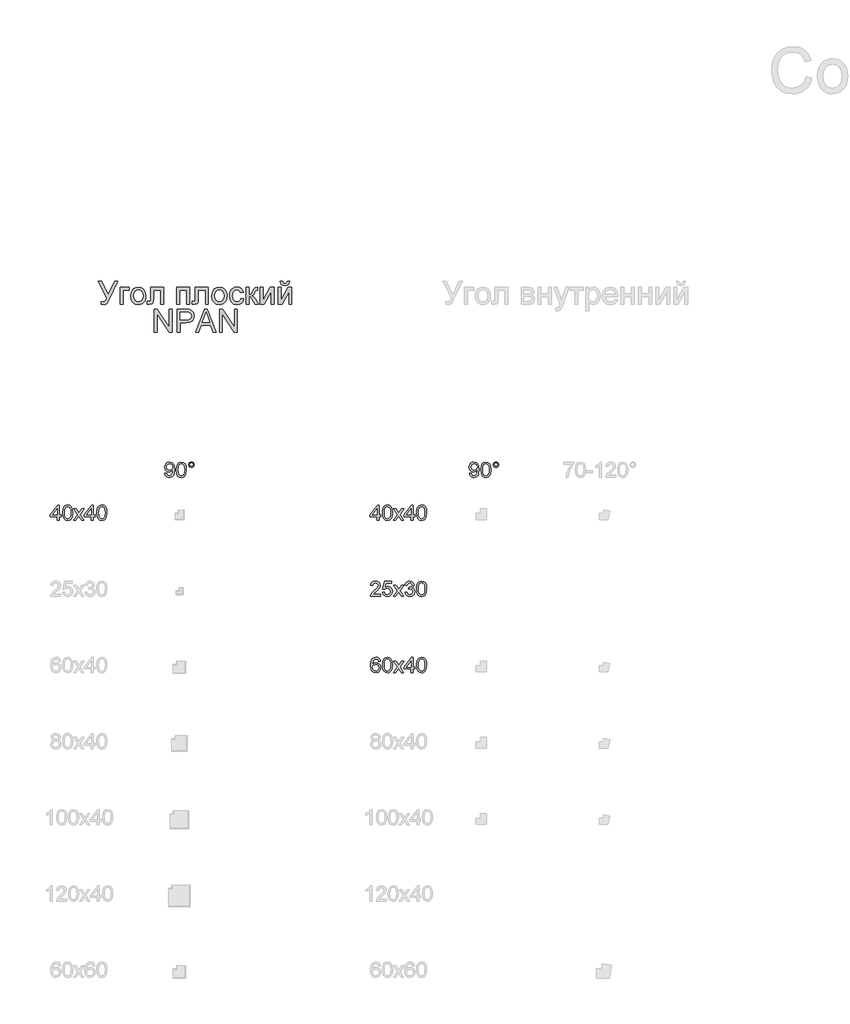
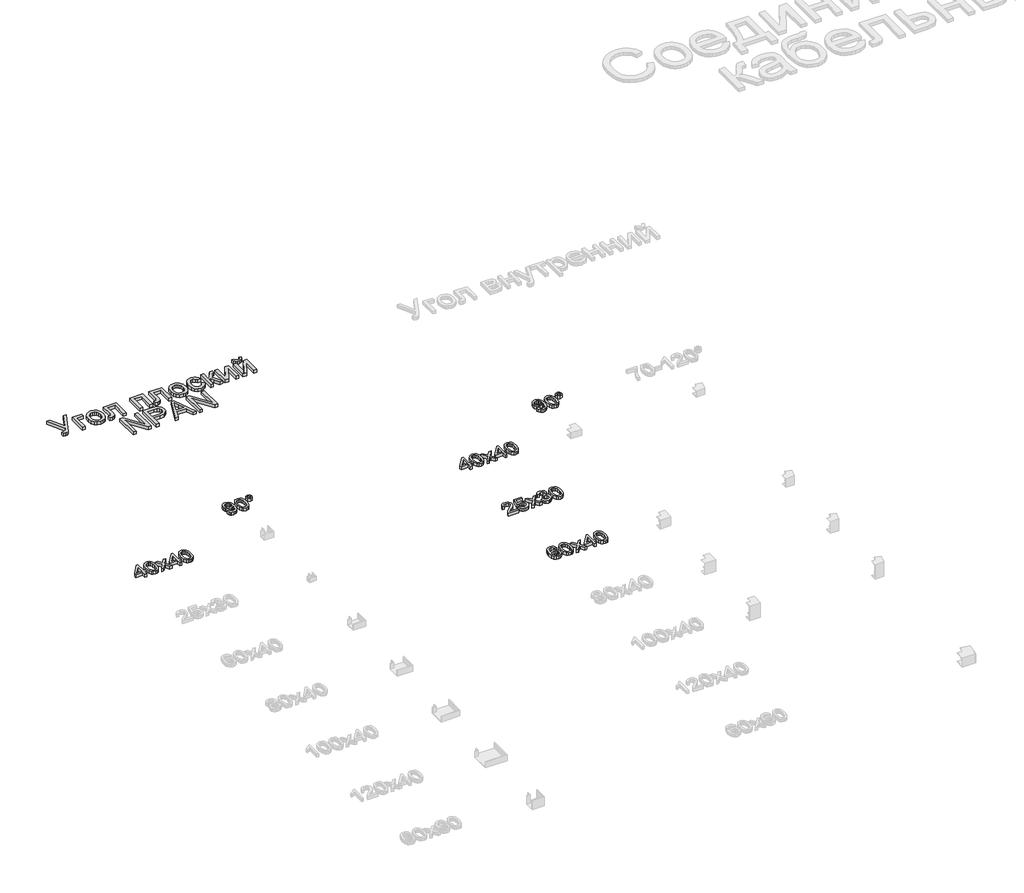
# One storey, part 21 of 28: 7 proxies.
"""IFC4 building model written with IfcOpenShell, lengths in millimetres."""

from ifc_helpers import new_model, si_unit, origin, origin_with_axes, place, context, project, spatial, polyline, outline, extrude, element, save

model = new_model("IFC4")

# Units and contexts
model_context = context("Model", 3, world=origin())
ifc_project = project(units=[si_unit("LENGTHUNIT", "METRE", prefix="MILLI")], contexts=[model_context])

# Site, building, storey
site = spatial("IfcSite", under=ifc_project)
building = spatial("IfcBuilding", under=site)
storey = spatial("IfcBuildingStorey", under=building, Name="Этаж 01", Elevation=0.0)

# Proxies
placement = place(None, origin())
element("IfcBuildingElementProxy", 1, Name="150 мм Arial", ObjectType="150 мм Arial", at=placement, inside=storey, context=model_context, shape_type="SweptSolid", body=[
    extrude(outline(polyline([(13270.5404243, 4604.2826486), (13291.3993334, 4604.2826486), (13336.4648778, 4515.0344766), (13377.0054737, 4604.2826486), (13397.6804418, 4604.2826486), (13340.4747915, 4486.8915039), (13324.9133832, 4458.0495555), (13317.5281521, 4452.9451928), (13307.5125648, 4451.2437386), (13290.5532048, 4453.5981834), (13290.5532048, 4470.0792968), (13305.3788492, 4470.0792968), (13316.3785209, 4474.2731515), (13326.5688521, 4493.3662271), (13270.5404243, 4604.2826486)])), origin_with_axes(), (0.0, 0.0, 1.0), 20.0),
    extrude(outline(polyline([(13412.9843328, 4564.2570875), (13474.1998968, 4564.2570875), (13474.1998968, 4545.4215294), (13431.819891, 4545.4215294), (13431.819891, 4453.5981834), (13412.9843328, 4453.5981834), (13412.9843328, 4564.2570875)])), origin_with_axes(), (0.0, 0.0, 1.0), 20.0),
    extrude(outline(polyline([(13483.6176759, 4508.9276355), (13487.691969, 4535.6082772), (13499.9148483, 4554.3610619), (13515.0164042, 4563.5489147), (13533.0978042, 4566.6115323), (13552.885257, 4562.8821286), (13568.6903873, 4551.6939174), (13579.0508639, 4533.9298155), (13582.5043562, 4510.4727398), (13580.9776459, 4491.4440436), (13576.3975151, 4476.9586901), (13568.8973209, 4466.1107697), (13558.6104206, 4457.9943732), (13546.3921398, 4452.9313973), (13533.0978042, 4451.2437386), (13513.0712281, 4454.9593468), (13497.284492, 4466.1061712), (13487.0343799, 4484.2427536), (13483.6176759, 4508.9276355)]), holes=[polyline([(13502.453234, 4508.9644237), (13504.6329348, 4491.9176917), (13511.1720373, 4479.7729873), (13521.0128807, 4472.5027194), (13533.0978042, 4470.0792968), (13545.1275455, 4472.516515), (13554.9499947, 4479.8281696), (13561.4890972, 4492.1338224), (13563.668798, 4509.5530348), (13561.4753016, 4526.1031261), (13554.8948124, 4538.0822836), (13545.0585676, 4545.3525515), (13533.0978042, 4547.7759741), (13521.0128807, 4545.3617485), (13511.1720373, 4538.1190718), (13504.6329348, 4526.0019586), (13502.453234, 4508.9644237)])]), origin_with_axes(), (0.0, 0.0, 1.0), 20.0),
    extrude(outline(polyline([(13613.1121382, 4564.2570875), (13697.8721499, 4564.2570875), (13697.8721499, 4453.708548), (13679.0365917, 4453.708548), (13679.0365917, 4545.4215294), (13631.9476963, 4545.4215294), (13631.9476963, 4492.6304631), (13630.6785034, 4468.276675), (13623.7071396, 4457.9943732), (13607.2260263, 4453.5981834), (13591.9221353, 4454.5546766), (13591.9221353, 4472.4337415), (13600.3466329, 4472.4337415), (13608.8631011, 4473.5925698), (13612.2660096, 4477.2713898), (13613.1121382, 4493.6973209), (13613.1121382, 4564.2570875)])), origin_with_axes(), (0.0, 0.0, 1.0), 20.0),
    extrude(outline(polyline([(13784.9866063, 4564.2570875), (13869.746618, 4564.2570875), (13869.746618, 4453.5981834), (13850.9110599, 4453.5981834), (13850.9110599, 4545.4215294), (13803.8221645, 4545.4215294), (13803.8221645, 4453.5981834), (13784.9866063, 4453.5981834), (13784.9866063, 4564.2570875)])), origin_with_axes(), (0.0, 0.0, 1.0), 20.0),
    extrude(outline(polyline([(13907.4177343, 4564.2570875), (13992.177746, 4564.2570875), (13992.177746, 4453.708548), (13973.3421879, 4453.708548), (13973.3421879, 4545.4215294), (13926.2532925, 4545.4215294), (13926.2532925, 4492.6304631), (13924.9840996, 4468.276675), (13918.0127358, 4457.9943732), (13901.5316224, 4453.5981834), (13886.2277314, 4454.5546766), (13886.2277314, 4472.4337415), (13894.6522291, 4472.4337415), (13903.1686973, 4473.5925698), (13906.5716057, 4477.2713898), (13907.4177343, 4493.6973209), (13907.4177343, 4564.2570875)])), origin_with_axes(), (0.0, 0.0, 1.0), 20.0),
    extrude(outline(polyline([(14015.7221937, 4508.9276355), (14019.7964868, 4535.6082772), (14032.0193661, 4554.3610619), (14047.120922, 4563.5489147), (14065.202322, 4566.6115323), (14084.9897749, 4562.8821286), (14100.7949051, 4551.6939174), (14111.1553818, 4533.9298155), (14114.608874, 4510.4727398), (14113.0821637, 4491.4440436), (14108.5020329, 4476.9586901), (14101.0018387, 4466.1107697), (14090.7149384, 4457.9943732), (14078.4966576, 4452.9313973), (14065.202322, 4451.2437386), (14045.1757459, 4454.9593468), (14029.3890098, 4466.1061712), (14019.1388977, 4484.2427536), (14015.7221937, 4508.9276355)]), holes=[polyline([(14034.5577518, 4508.9644237), (14036.7374527, 4491.9176917), (14043.2765551, 4479.7729873), (14053.1173985, 4472.5027194), (14065.202322, 4470.0792968), (14077.2320633, 4472.516515), (14087.0545126, 4479.8281696), (14093.593615, 4492.1338224), (14095.7733158, 4509.5530348), (14093.5798194, 4526.1031261), (14086.9993303, 4538.0822836), (14077.1630854, 4545.3525515), (14065.202322, 4547.7759741), (14053.1173985, 4545.3617485), (14043.2765551, 4538.1190718), (14036.7374527, 4526.0019586), (14034.5577518, 4508.9644237)])]), origin_with_axes(), (0.0, 0.0, 1.0), 20.0),
    extrude(outline(polyline([(14206.43222, 4493.6237445), (14225.2677781, 4491.2692997), (14220.0162627, 4474.5168733), (14210.1478281, 4461.8571342), (14196.5913766, 4453.8970875), (14180.2758101, 4451.2437386), (14160.240037, 4454.9455512), (14144.5728625, 4466.0509889), (14134.4607062, 4484.0726082), (14131.0899874, 4508.5229653), (14132.5293257, 4525.2845887), (14136.8473406, 4539.8113289), (14144.11301, 4551.5421661), (14154.3953118, 4559.91608), (14166.696366, 4564.9376692), (14180.0182927, 4566.6115323), (14195.9337876, 4564.3122698), (14208.6579061, 4557.4144824), (14217.7859781, 4546.2860521), (14222.9133334, 4531.2948608), (14204.0777752, 4528.940416), (14195.3405778, 4543.0486905), (14180.1654455, 4547.7759741), (14167.99315, 4545.4491205), (14158.3316491, 4538.4685597), (14152.0270714, 4526.4572125), (14149.9255455, 4509.0380001), (14151.9810862, 4491.3842628), (14158.1477081, 4479.3315289), (14167.6344651, 4472.3923548), (14179.6504107, 4470.0792968), (14189.4038821, 4471.5232336), (14197.400717, 4475.8550441), (14203.2178511, 4483.1850928), (14206.43222, 4493.6237445)])), origin_with_axes(), (0.0, 0.0, 1.0), 20.0),
    extrude(outline(polyline([(14241.7488915, 4564.2570875), (14260.5844497, 4564.2570875), (14260.5844497, 4517.1681921), (14273.2028021, 4520.5527065), (14283.5402862, 4540.2711814), (14292.1303308, 4557.2857237), (14299.7086999, 4562.8223477), (14313.4858806, 4564.2570875), (14317.0911241, 4564.2570875), (14317.0911241, 4545.3111648), (14312.0143526, 4545.4215294), (14302.8173027, 4543.4349666), (14296.3425796, 4531.0373434), (14288.7458164, 4517.6280446), (14278.0956327, 4511.061351), (14289.9782211, 4503.7313023), (14301.6400803, 4488.2894555), (14321.8000137, 4453.5981834), (14300.3892816, 4453.5981834), (14280.6340184, 4487.5536915), (14270.7012046, 4501.9194834), (14260.5844497, 4505.3959683), (14260.5844497, 4453.5981834), (14241.7488915, 4453.5981834), (14241.7488915, 4564.2570875)])), origin_with_axes(), (0.0, 0.0, 1.0), 20.0),
    extrude(outline(polyline([(14333.5722375, 4564.2570875), (14352.4077957, 4564.2570875), (14352.4077957, 4479.8649578), (14398.6873507, 4564.2570875), (14423.0411388, 4564.2570875), (14423.0411388, 4453.5981834), (14404.2055806, 4453.5981834), (14404.2055806, 4537.4752783), (14358.2203312, 4453.5981834), (14333.5722375, 4453.5981834), (14333.5722375, 4564.2570875)])), origin_with_axes(), (0.0, 0.0, 1.0), 20.0),
    extrude(outline(polyline([(14451.294476, 4564.2570875), (14470.1300341, 4564.2570875), (14470.1300341, 4479.8649578), (14516.4095891, 4564.2570875), (14540.7633772, 4564.2570875), (14540.7633772, 4453.5981834), (14521.9278191, 4453.5981834), (14521.9278191, 4537.4752783), (14475.9425697, 4453.5981834), (14451.294476, 4453.5981834), (14451.294476, 4564.2570875)])), origin_with_axes(), (0.0, 0.0, 1.0), 20.0),
    extrude(outline(polyline([(14512.51004, 4604.2826486), (14526.6367086, 4604.2826486), (14523.5970836, 4592.2207177), (14517.494841, 4583.331769), (14508.6058923, 4577.8549258), (14497.206149, 4576.0293114), (14484.8361169, 4577.8411302), (14475.2435939, 4583.2765867), (14468.6860973, 4592.1517398), (14465.4211446, 4604.2826486), (14479.5478132, 4604.2826486), (14484.8453139, 4593.669253), (14495.5138918, 4590.15598), (14507.2125393, 4593.5588884), (14512.51004, 4604.2826486)])), origin_with_axes(), (0.0, 0.0, 1.0), 20.0),
    extrude(outline(polyline([(13636.6565859, 4270.6359566), (13636.6565859, 4421.3204218), (13656.8165192, 4421.3204218), (13735.5432662, 4301.9427144), (13735.5432662, 4421.3204218), (13754.3788243, 4421.3204218), (13754.3788243, 4270.6359566), (13734.218891, 4270.6359566), (13655.492144, 4390.0504522), (13655.492144, 4270.6359566), (13636.6565859, 4270.6359566)])), origin_with_axes(), (0.0, 0.0, 1.0), 20.0),
    extrude(outline(polyline([(13787.3410511, 4270.6359566), (13787.3410511, 4421.3204218), (13843.185538, 4421.3204218), (13865.6999161, 4419.8856821), (13884.0020453, 4412.8407418), (13895.8662397, 4398.2726148), (13900.3544, 4377.7264054), (13897.3239721, 4359.9669021), (13888.2326883, 4345.1688488), (13871.2319416, 4335.1808527), (13844.4731249, 4331.8515206), (13806.1766092, 4331.8515206), (13806.1766092, 4270.6359566), (13787.3410511, 4270.6359566)]), holes=[polyline([(13806.1766092, 4350.6870788), (13845.5767709, 4350.6870788), (13862.2786135, 4352.4161241), (13873.3150734, 4357.6032603), (13879.4678997, 4365.9265904), (13881.5188419, 4377.0642178), (13876.6811936, 4392.6624144), (13863.9708707, 4401.1972767), (13845.1353125, 4402.4848637), (13806.1766092, 4402.4848637), (13806.1766092, 4350.6870788)])]), origin_with_axes(), (0.0, 0.0, 1.0), 20.0),
    extrude(outline(polyline([(13908.7053213, 4270.6359566), (13968.8540275, 4421.3204218), (13984.8936825, 4421.3204218), (14045.0423887, 4270.6359566), (14025.1399728, 4270.6359566), (14007.8863072, 4317.724852), (13945.8246146, 4317.724852), (13928.6077372, 4270.6359566), (13908.7053213, 4270.6359566)]), holes=[polyline([(13952.7407961, 4336.5604101), (14001.0069139, 4336.5604101), (13987.4320683, 4373.6061271), (13976.873855, 4402.4848637), (13967.4928641, 4376.8434886), (13952.7407961, 4336.5604101)])]), origin_with_axes(), (0.0, 0.0, 1.0), 20.0),
    extrude(outline(polyline([(14065.1655338, 4270.6359566), (14065.1655338, 4421.3204218), (14085.3254672, 4421.3204218), (14164.0522141, 4301.9427144), (14164.0522141, 4421.3204218), (14182.8877723, 4421.3204218), (14182.8877723, 4270.6359566), (14162.727839, 4270.6359566), (14084.001092, 4390.0504522), (14084.001092, 4270.6359566), (14065.1655338, 4270.6359566)])), origin_with_axes(), (0.0, 0.0, 1.0), 20.0),
])
element("IfcBuildingElementProxy", 2, Name="100 мм Arial", ObjectType="100 мм Arial", at=placement, inside=storey, context=model_context, shape_type="SweptSolid", body=[
    extrude(outline(polyline([(12999.7099126, 3036.6647442), (12999.7099126, 3060.2091919), (12954.1906471, 3060.2091919), (12954.1906471, 3072.7662307), (13002.8491723, 3135.5514245), (13012.2669514, 3135.5514245), (13012.2669514, 3072.7662307), (13024.8239902, 3072.7662307), (13024.8239902, 3060.2091919), (13012.2669514, 3060.2091919), (13012.2669514, 3036.6647442), (12999.7099126, 3036.6647442)]), holes=[polyline([(12999.7099126, 3072.7662307), (12999.7099126, 3111.5655184), (12969.6416909, 3072.7662307), (12999.7099126, 3072.7662307)])]), origin_with_axes(), (0.0, 0.0, 1.0), 20.0),
    extrude(outline(polyline([(13035.8113991, 3086.0835589), (13039.5024818, 3114.986821), (13050.4653652, 3131.6518754), (13068.7736259, 3137.1210543), (13083.4398547, 3133.8836928), (13093.5688723, 3124.5517528), (13099.4549843, 3109.6893202), (13101.7358526, 3086.0835589), (13098.0815581, 3057.3029241), (13087.1554629, 3040.6010815), (13078.9241032, 3036.4716062), (13068.7736259, 3035.0951144), (13055.7260778, 3037.4863473), (13045.8177894, 3044.6600462), (13038.3129967, 3061.650063), (13035.8113991, 3086.0835589)]), holes=[polyline([(13048.3684379, 3086.1080844), (13049.8399658, 3066.3558869), (13054.2545498, 3054.9239539), (13060.8273748, 3049.4701033), (13068.7736259, 3047.6521531), (13076.719877, 3049.4762347), (13083.2927019, 3054.9484794), (13087.7072859, 3066.3865437), (13089.1788139, 3086.1080844), (13087.7563368, 3105.4157577), (13083.4889057, 3116.9365955), (13076.9283434, 3122.6571606), (13068.6264731, 3124.5640156), (13060.7660611, 3122.8840211), (13054.4507535, 3117.8440378), (13049.8890168, 3105.6058301), (13048.3684379, 3086.1080844)])]), origin_with_axes(), (0.0, 0.0, 1.0), 20.0),
    extrude(outline(polyline([(13108.014372, 3036.6647442), (13134.8452322, 3073.7472493), (13109.5840019, 3110.437347), (13124.6916891, 3110.437347), (13136.8808459, 3092.7790112), (13142.5707541, 3084.4403526), (13147.5003728, 3091.2584323), (13161.3817868, 3110.437347), (13176.489474, 3110.437347), (13149.9529195, 3073.7472493), (13175.5084554, 3036.6647442), (13160.4007681, 3036.6647442), (13145.0233007, 3058.9583931), (13142.2028721, 3063.0296205), (13123.1220593, 3036.6647442), (13108.014372, 3036.6647442)])), origin_with_axes(), (0.0, 0.0, 1.0), 20.0),
    extrude(outline(polyline([(13224.1669806, 3036.6647442), (13224.1669806, 3060.2091919), (13178.6477151, 3060.2091919), (13178.6477151, 3072.7662307), (13227.3062403, 3135.5514245), (13236.7240194, 3135.5514245), (13236.7240194, 3072.7662307), (13249.2810582, 3072.7662307), (13249.2810582, 3060.2091919), (13236.7240194, 3060.2091919), (13236.7240194, 3036.6647442), (13224.1669806, 3036.6647442)]), holes=[polyline([(13224.1669806, 3072.7662307), (13224.1669806, 3111.5655184), (13194.0987589, 3072.7662307), (13224.1669806, 3072.7662307)])]), origin_with_axes(), (0.0, 0.0, 1.0), 20.0),
    extrude(outline(polyline([(13260.2684671, 3086.0835589), (13263.9595498, 3114.986821), (13274.9224332, 3131.6518754), (13293.2306938, 3137.1210543), (13307.8969227, 3133.8836928), (13318.0259403, 3124.5517528), (13323.9120522, 3109.6893202), (13326.1929206, 3086.0835589), (13322.5386261, 3057.3029241), (13311.6125309, 3040.6010815), (13303.3811712, 3036.4716062), (13293.2306938, 3035.0951144), (13280.1831458, 3037.4863473), (13270.2748573, 3044.6600462), (13262.7700646, 3061.650063), (13260.2684671, 3086.0835589)]), holes=[polyline([(13272.8255058, 3086.1080844), (13274.2970338, 3066.3558869), (13278.7116178, 3054.9239539), (13285.2844428, 3049.4701033), (13293.2306938, 3047.6521531), (13301.1769449, 3049.4762347), (13307.7497699, 3054.9484794), (13312.1643539, 3066.3865437), (13313.6358818, 3086.1080844), (13312.2134048, 3105.4157577), (13307.9459737, 3116.9365955), (13301.3854114, 3122.6571606), (13293.0835411, 3124.5640156), (13285.2231291, 3122.8840211), (13278.9078215, 3117.8440378), (13274.3460848, 3105.6058301), (13272.8255058, 3086.1080844)])]), origin_with_axes(), (0.0, 0.0, 1.0), 20.0),
])
element("IfcBuildingElementProxy", 3, Name="100 мм Arial", ObjectType="100 мм Arial", at=placement, inside=storey, context=model_context, shape_type="SweptSolid", body=[
    extrude(outline(polyline([(15099.7099126, 3036.6647442), (15099.7099126, 3060.2091919), (15054.1906471, 3060.2091919), (15054.1906471, 3072.7662307), (15102.8491723, 3135.5514245), (15112.2669514, 3135.5514245), (15112.2669514, 3072.7662307), (15124.8239902, 3072.7662307), (15124.8239902, 3060.2091919), (15112.2669514, 3060.2091919), (15112.2669514, 3036.6647442), (15099.7099126, 3036.6647442)]), holes=[polyline([(15099.7099126, 3072.7662307), (15099.7099126, 3111.5655184), (15069.6416909, 3072.7662307), (15099.7099126, 3072.7662307)])]), origin_with_axes(), (0.0, 0.0, 1.0), 20.0),
    extrude(outline(polyline([(15135.8113991, 3086.0835589), (15139.5024818, 3114.986821), (15150.4653652, 3131.6518754), (15168.7736259, 3137.1210543), (15183.4398547, 3133.8836928), (15193.5688723, 3124.5517528), (15199.4549843, 3109.6893202), (15201.7358526, 3086.0835589), (15198.0815581, 3057.3029241), (15187.1554629, 3040.6010815), (15178.9241032, 3036.4716062), (15168.7736259, 3035.0951144), (15155.7260778, 3037.4863473), (15145.8177894, 3044.6600462), (15138.3129967, 3061.650063), (15135.8113991, 3086.0835589)]), holes=[polyline([(15148.3684379, 3086.1080844), (15149.8399658, 3066.3558869), (15154.2545498, 3054.9239539), (15160.8273748, 3049.4701033), (15168.7736259, 3047.6521531), (15176.719877, 3049.4762347), (15183.2927019, 3054.9484794), (15187.7072859, 3066.3865437), (15189.1788139, 3086.1080844), (15187.7563368, 3105.4157577), (15183.4889057, 3116.9365955), (15176.9283434, 3122.6571606), (15168.6264731, 3124.5640156), (15160.7660611, 3122.8840211), (15154.4507535, 3117.8440378), (15149.8890168, 3105.6058301), (15148.3684379, 3086.1080844)])]), origin_with_axes(), (0.0, 0.0, 1.0), 20.0),
    extrude(outline(polyline([(15208.014372, 3036.6647442), (15234.8452322, 3073.7472493), (15209.5840019, 3110.437347), (15224.6916891, 3110.437347), (15236.8808459, 3092.7790112), (15242.5707541, 3084.4403526), (15247.5003728, 3091.2584323), (15261.3817868, 3110.437347), (15276.489474, 3110.437347), (15249.9529195, 3073.7472493), (15275.5084554, 3036.6647442), (15260.4007681, 3036.6647442), (15245.0233007, 3058.9583931), (15242.2028721, 3063.0296205), (15223.1220593, 3036.6647442), (15208.014372, 3036.6647442)])), origin_with_axes(), (0.0, 0.0, 1.0), 20.0),
    extrude(outline(polyline([(15324.1669806, 3036.6647442), (15324.1669806, 3060.2091919), (15278.6477151, 3060.2091919), (15278.6477151, 3072.7662307), (15327.3062403, 3135.5514245), (15336.7240194, 3135.5514245), (15336.7240194, 3072.7662307), (15349.2810582, 3072.7662307), (15349.2810582, 3060.2091919), (15336.7240194, 3060.2091919), (15336.7240194, 3036.6647442), (15324.1669806, 3036.6647442)]), holes=[polyline([(15324.1669806, 3072.7662307), (15324.1669806, 3111.5655184), (15294.0987589, 3072.7662307), (15324.1669806, 3072.7662307)])]), origin_with_axes(), (0.0, 0.0, 1.0), 20.0),
    extrude(outline(polyline([(15360.2684671, 3086.0835589), (15363.9595498, 3114.986821), (15374.9224332, 3131.6518754), (15393.2306938, 3137.1210543), (15407.8969227, 3133.8836928), (15418.0259403, 3124.5517528), (15423.9120522, 3109.6893202), (15426.1929206, 3086.0835589), (15422.5386261, 3057.3029241), (15411.6125309, 3040.6010815), (15403.3811712, 3036.4716062), (15393.2306938, 3035.0951144), (15380.1831458, 3037.4863473), (15370.2748573, 3044.6600462), (15362.7700646, 3061.650063), (15360.2684671, 3086.0835589)]), holes=[polyline([(15372.8255058, 3086.1080844), (15374.2970338, 3066.3558869), (15378.7116178, 3054.9239539), (15385.2844428, 3049.4701033), (15393.2306938, 3047.6521531), (15401.1769449, 3049.4762347), (15407.7497699, 3054.9484794), (15412.1643539, 3066.3865437), (15413.6358818, 3086.1080844), (15412.2134048, 3105.4157577), (15407.9459737, 3116.9365955), (15401.3854114, 3122.6571606), (15393.0835411, 3124.5640156), (15385.2231291, 3122.8840211), (15378.9078215, 3117.8440378), (15374.3460848, 3105.6058301), (15372.8255058, 3086.1080844)])]), origin_with_axes(), (0.0, 0.0, 1.0), 20.0),
])
element("IfcBuildingElementProxy", 4, Name="100 мм Arial", ObjectType="100 мм Arial", at=placement, inside=storey, context=model_context, shape_type="SweptSolid", body=[
    extrude(outline(polyline([(15123.2543603, 2549.221783), (15123.2543603, 2536.6647442), (15057.3299068, 2536.6647442), (15058.6788074, 2545.3222338), (15066.3062275, 2558.6518248), (15082.0270514, 2573.2076891), (15103.7075636, 2594.1279118), (15109.1276917, 2608.3526823), (15104.014132, 2619.8673888), (15090.6600155, 2624.5640156), (15076.7418134, 2619.9777534), (15071.4565754, 2607.2980873), (15058.8995366, 2608.8677171), (15061.9437601, 2621.0139543), (15068.5257822, 2629.8860418), (15078.3022462, 2635.3123012), (15090.9297957, 2637.1210543), (15103.6493157, 2635.1099661), (15113.4073856, 2629.0767014), (15119.6153943, 2620.0635925), (15121.6847305, 2609.1129718), (15119.452913, 2597.2058579), (15112.0339595, 2584.8940738), (15094.0445299, 2567.6894591), (15079.5990302, 2555.610667), (15073.9336475, 2549.221783), (15123.2543603, 2549.221783)])), origin_with_axes(), (0.0, 0.0, 1.0), 20.0),
    extrude(outline(polyline([(15135.8113991, 2563.3484516), (15148.3684379, 2564.9180814), (15154.6960082, 2551.9808979), (15167.8171327, 2547.6521531), (15176.8179788, 2549.1574036), (15183.5624821, 2553.6731551), (15187.7747309, 2560.6782414), (15189.1788139, 2569.6514964), (15183.9181013, 2584.56298), (15177.3115538, 2588.6648642), (15168.0133364, 2590.032159), (15156.9891393, 2587.8493925), (15149.9380677, 2582.1840097), (15137.3810289, 2583.7536396), (15148.3684379, 2635.5514245), (15197.0269631, 2635.5514245), (15197.0269631, 2622.9943857), (15158.5219809, 2622.9943857), (15153.1509038, 2595.3296597), (15162.1210931, 2600.7743132), (15171.5204781, 2602.5891977), (15183.2528481, 2600.3389862), (15192.9925239, 2593.5883516), (15199.5500204, 2583.2999185), (15201.7358526, 2570.4363114), (15199.767684, 2557.8792726), (15193.8631779, 2547.1371183), (15182.5569379, 2538.1056153), (15167.7680817, 2535.0951144), (15155.4348378, 2537.0295605), (15145.6093229, 2542.832899), (15138.8740167, 2551.8306794), (15135.8113991, 2563.3484516)])), origin_with_axes(), (0.0, 0.0, 1.0), 20.0),
    extrude(outline(polyline([(15208.014372, 2536.6647442), (15234.8452322, 2573.7472493), (15209.5840019, 2610.437347), (15224.6916891, 2610.437347), (15236.8808459, 2592.7790112), (15242.5707541, 2584.4403526), (15247.5003728, 2591.2584323), (15261.3817868, 2610.437347), (15276.489474, 2610.437347), (15249.9529195, 2573.7472493), (15275.5084554, 2536.6647442), (15260.4007681, 2536.6647442), (15245.0233007, 2558.9583931), (15242.2028721, 2563.0296205), (15223.1220593, 2536.6647442), (15208.014372, 2536.6647442)])), origin_with_axes(), (0.0, 0.0, 1.0), 20.0),
    extrude(outline(polyline([(15283.3566046, 2563.3484516), (15295.9136434, 2564.9180814), (15302.8420876, 2551.6988551), (15315.8037966, 2547.6521531), (15324.4122353, 2549.0439733), (15331.0586367, 2553.219434), (15336.7240194, 2567.0027461), (15331.1076876, 2579.9889805), (15316.8338662, 2585.1270657), (15308.0292238, 2583.7536396), (15309.4271753, 2596.3106784), (15311.4382636, 2596.1635256), (15325.6875595, 2599.7687691), (15330.4332373, 2604.3427686), (15332.0151299, 2610.8542799), (15327.4288676, 2620.6767292), (15315.6075929, 2624.5640156), (15303.6391653, 2620.639941), (15297.4832732, 2608.8677171), (15284.9262345, 2610.437347), (15288.6234485, 2621.7129301), (15295.2024049, 2630.1312964), (15304.203251, 2635.3736149), (15315.1661345, 2637.1210543), (15330.3106099, 2633.6752263), (15340.9056114, 2624.2574473), (15344.5721686, 2611.5900439), (15341.0895524, 2600.0140238), (15330.7888565, 2591.6998907), (15344.4740668, 2583.1159775), (15349.2810582, 2566.7820169), (15346.8775625, 2554.5438092), (15339.6670754, 2544.3166897), (15328.7838997, 2537.4005082), (15315.3623382, 2535.0951144), (15303.2222324, 2537.063283), (15293.3384694, 2542.967789), (15286.4652075, 2551.999292), (15283.3566046, 2563.3484516)])), origin_with_axes(), (0.0, 0.0, 1.0), 20.0),
    extrude(outline(polyline([(15360.2684671, 2586.0835589), (15363.9595498, 2614.986821), (15374.9224332, 2631.6518754), (15393.2306938, 2637.1210543), (15407.8969227, 2633.8836928), (15418.0259403, 2624.5517528), (15423.9120522, 2609.6893202), (15426.1929206, 2586.0835589), (15422.5386261, 2557.3029241), (15411.6125309, 2540.6010815), (15403.3811712, 2536.4716062), (15393.2306938, 2535.0951144), (15380.1831458, 2537.4863473), (15370.2748573, 2544.6600462), (15362.7700646, 2561.650063), (15360.2684671, 2586.0835589)]), holes=[polyline([(15372.8255058, 2586.1080844), (15374.2970338, 2566.3558869), (15378.7116178, 2554.9239539), (15385.2844428, 2549.4701033), (15393.2306938, 2547.6521531), (15401.1769449, 2549.4762347), (15407.7497699, 2554.9484794), (15412.1643539, 2566.3865437), (15413.6358818, 2586.1080844), (15412.2134048, 2605.4157577), (15407.9459737, 2616.9365955), (15401.3854114, 2622.6571606), (15393.0835411, 2624.5640156), (15385.2231291, 2622.8840211), (15378.9078215, 2617.8440378), (15374.3460848, 2605.6058301), (15372.8255058, 2586.1080844)])]), origin_with_axes(), (0.0, 0.0, 1.0), 20.0),
])
element("IfcBuildingElementProxy", 5, Name="100 мм Arial", ObjectType="100 мм Arial", at=placement, inside=storey, context=model_context, shape_type="SweptSolid", body=[
    extrude(outline(polyline([(15123.2543603, 2110.437347), (15110.6973216, 2108.8677171), (15105.9393811, 2119.3400912), (15093.3578168, 2124.5640156), (15082.0270514, 2121.5228578), (15073.4554009, 2110.1062532), (15069.8869456, 2087.7267651), (15080.9601936, 2097.7454181), (15094.682192, 2101.0195679), (15106.2827376, 2098.7816191), (15116.0193477, 2092.0677727), (15122.6228296, 2081.8099964), (15124.8239902, 2068.9402579), (15120.6791864, 2051.6130159), (15109.2748445, 2039.3502828), (15092.8182566, 2035.0951144), (15078.5720263, 2037.915543), (15067.2259325, 2046.3768289), (15059.8039132, 2061.3128379), (15057.3299068, 2083.5574359), (15060.076759, 2108.5672802), (15068.3173157, 2125.6676616), (15079.5683734, 2134.2577062), (15094.1426318, 2137.1210543), (15105.1606975, 2135.3490894), (15113.983734, 2130.0331946), (15120.1641516, 2121.5903028), (15123.2543603, 2110.437347)]), holes=[polyline([(15069.8869456, 2069.1364616), (15072.7932133, 2058.2594173), (15080.5187352, 2050.3622172), (15091.8372379, 2047.6521531), (15100.1237799, 2049.0562361), (15106.6383569, 2053.2684849), (15110.8598028, 2059.8903608), (15112.2669514, 2068.523325), (15110.8781969, 2076.8098669), (15106.7119333, 2083.1282402), (15100.0869917, 2087.1289569), (15091.3222031, 2088.4625291), (15076.1286767, 2083.1282402), (15071.4473784, 2076.9631511), (15069.8869456, 2069.1364616)])]), origin_with_axes(), (0.0, 0.0, 1.0), 20.0),
    extrude(outline(polyline([(15135.8113991, 2086.0835589), (15139.5024818, 2114.986821), (15150.4653652, 2131.6518754), (15168.7736259, 2137.1210543), (15183.4398547, 2133.8836928), (15193.5688723, 2124.5517528), (15199.4549843, 2109.6893202), (15201.7358526, 2086.0835589), (15198.0815581, 2057.3029241), (15187.1554629, 2040.6010815), (15178.9241032, 2036.4716062), (15168.7736259, 2035.0951144), (15155.7260778, 2037.4863473), (15145.8177894, 2044.6600462), (15138.3129967, 2061.650063), (15135.8113991, 2086.0835589)]), holes=[polyline([(15148.3684379, 2086.1080844), (15149.8399658, 2066.3558869), (15154.2545498, 2054.9239539), (15160.8273748, 2049.4701033), (15168.7736259, 2047.6521531), (15176.719877, 2049.4762347), (15183.2927019, 2054.9484794), (15187.7072859, 2066.3865437), (15189.1788139, 2086.1080844), (15187.7563368, 2105.4157577), (15183.4889057, 2116.9365955), (15176.9283434, 2122.6571606), (15168.6264731, 2124.5640156), (15160.7660611, 2122.8840211), (15154.4507535, 2117.8440378), (15149.8890168, 2105.6058301), (15148.3684379, 2086.1080844)])]), origin_with_axes(), (0.0, 0.0, 1.0), 20.0),
    extrude(outline(polyline([(15208.014372, 2036.6647442), (15234.8452322, 2073.7472493), (15209.5840019, 2110.437347), (15224.6916891, 2110.437347), (15236.8808459, 2092.7790112), (15242.5707541, 2084.4403526), (15247.5003728, 2091.2584323), (15261.3817868, 2110.437347), (15276.489474, 2110.437347), (15249.9529195, 2073.7472493), (15275.5084554, 2036.6647442), (15260.4007681, 2036.6647442), (15245.0233007, 2058.9583931), (15242.2028721, 2063.0296205), (15223.1220593, 2036.6647442), (15208.014372, 2036.6647442)])), origin_with_axes(), (0.0, 0.0, 1.0), 20.0),
    extrude(outline(polyline([(15324.1669806, 2036.6647442), (15324.1669806, 2060.2091919), (15278.6477151, 2060.2091919), (15278.6477151, 2072.7662307), (15327.3062403, 2135.5514245), (15336.7240194, 2135.5514245), (15336.7240194, 2072.7662307), (15349.2810582, 2072.7662307), (15349.2810582, 2060.2091919), (15336.7240194, 2060.2091919), (15336.7240194, 2036.6647442), (15324.1669806, 2036.6647442)]), holes=[polyline([(15324.1669806, 2072.7662307), (15324.1669806, 2111.5655184), (15294.0987589, 2072.7662307), (15324.1669806, 2072.7662307)])]), origin_with_axes(), (0.0, 0.0, 1.0), 20.0),
    extrude(outline(polyline([(15360.2684671, 2086.0835589), (15363.9595498, 2114.986821), (15374.9224332, 2131.6518754), (15393.2306938, 2137.1210543), (15407.8969227, 2133.8836928), (15418.0259403, 2124.5517528), (15423.9120522, 2109.6893202), (15426.1929206, 2086.0835589), (15422.5386261, 2057.3029241), (15411.6125309, 2040.6010815), (15403.3811712, 2036.4716062), (15393.2306938, 2035.0951144), (15380.1831458, 2037.4863473), (15370.2748573, 2044.6600462), (15362.7700646, 2061.650063), (15360.2684671, 2086.0835589)]), holes=[polyline([(15372.8255058, 2086.1080844), (15374.2970338, 2066.3558869), (15378.7116178, 2054.9239539), (15385.2844428, 2049.4701033), (15393.2306938, 2047.6521531), (15401.1769449, 2049.4762347), (15407.7497699, 2054.9484794), (15412.1643539, 2066.3865437), (15413.6358818, 2086.1080844), (15412.2134048, 2105.4157577), (15407.9459737, 2116.9365955), (15401.3854114, 2122.6571606), (15393.0835411, 2124.5640156), (15385.2231291, 2122.8840211), (15378.9078215, 2117.8440378), (15374.3460848, 2105.6058301), (15372.8255058, 2086.1080844)])]), origin_with_axes(), (0.0, 0.0, 1.0), 20.0),
])
element("IfcBuildingElementProxy", 6, Name="100 мм Arial", ObjectType="100 мм Arial", at=placement, inside=storey, context=model_context, shape_type="SweptSolid", body=[
    extrude(outline(polyline([(13707.2078577, 3343.1052342), (13719.7648965, 3344.6748641), (13725.4057538, 3332.6941738), (13736.0988571, 3328.9785656), (13746.2646629, 3331.3697986), (13753.1563189, 3337.7586826), (13757.2643345, 3348.6725151), (13759.079219, 3363.2406421), (13759.0056427, 3365.6931888), (13748.9624642, 3356.1773078), (13735.1914148, 3352.5230133), (13723.7410877, 3354.7548308), (13714.2098784, 3361.4502831), (13707.7811405, 3371.7938985), (13705.6382279, 3384.9702053), (13707.8853737, 3398.5818391), (13714.6268113, 3409.250417), (13724.7527632, 3416.1482044), (13737.1534521, 3418.4474669), (13755.0447798, 3413.1990171), (13767.3565639, 3398.2384826), (13771.5626814, 3370.1322982), (13767.3688267, 3339.6348808), (13762.1540994, 3329.6438189), (13754.897627, 3322.3566897), (13745.9121093, 3317.9053176), (13735.5102459, 3316.4215269), (13724.774223, 3318.172032), (13716.2087039, 3323.4235475), (13710.2183587, 3331.8449795), (13707.2078577, 3343.1052342)]), holes=[polyline([(13759.0056427, 3385.2645109), (13757.6506106, 3393.7748477), (13753.5855146, 3400.3231472), (13747.2763384, 3404.4986079), (13739.1890658, 3405.8904281), (13730.8013564, 3404.391309), (13724.0813786, 3399.8939516), (13719.6667946, 3393.0114926), (13718.1952667, 3384.3570686), (13719.5870869, 3376.5978242), (13723.7625475, 3370.4388665), (13730.3169784, 3366.4197557), (13738.8457093, 3365.0800521), (13753.3279972, 3370.4388665), (13757.5862313, 3376.8246848), (13759.0056427, 3385.2645109)])]), origin_with_axes(), (0.0, 0.0, 1.0), 20.0),
    extrude(outline(polyline([(13782.5500903, 3367.4099714), (13786.241173, 3396.3132335), (13797.2040565, 3412.9782879), (13815.5123171, 3418.4474669), (13830.178546, 3415.2101053), (13840.3075636, 3405.8781654), (13846.1936755, 3391.0157328), (13848.4745439, 3367.4099714), (13844.8202494, 3338.6293366), (13833.8941541, 3321.9274941), (13825.6627945, 3317.7980187), (13815.5123171, 3316.4215269), (13802.464769, 3318.8127598), (13792.5564806, 3325.9864587), (13785.0516879, 3342.9764756), (13782.5500903, 3367.4099714)]), holes=[polyline([(13795.1071291, 3367.4344969), (13796.5786571, 3347.6822994), (13800.993241, 3336.2503664), (13807.566066, 3330.7965158), (13815.5123171, 3328.9785656), (13823.4585682, 3330.8026472), (13830.0313932, 3336.2748919), (13834.4459771, 3347.7129562), (13835.9175051, 3367.4344969), (13834.4950281, 3386.7421702), (13830.2275969, 3398.2630081), (13823.6670347, 3403.9835731), (13815.3651643, 3405.8904281), (13807.5047523, 3404.2104336), (13801.1894448, 3399.1704503), (13796.627708, 3386.9322426), (13795.1071291, 3367.4344969)])]), origin_with_axes(), (0.0, 0.0, 1.0), 20.0),
    extrude(outline(polyline([(13862.6012125, 3401.206064), (13868.1317052, 3414.5233922), (13881.4122452, 3420.0170967), (13894.7786243, 3414.5233922), (13900.2723288, 3401.206064), (13894.7418361, 3387.8764731), (13881.4122452, 3382.3459804), (13868.1317052, 3387.8396849), (13862.6012125, 3401.206064)]), holes=[polyline([(13870.4493617, 3401.1815386), (13873.6744605, 3393.4069657), (13881.4612961, 3390.1941296), (13889.1990807, 3393.4069657), (13892.4241796, 3401.1815386), (13889.1990807, 3408.9561114), (13881.4612961, 3412.1689475), (13873.6744605, 3408.9561114), (13870.4493617, 3401.1815386)])]), origin_with_axes(), (0.0, 0.0, 1.0), 20.0),
])
element("IfcBuildingElementProxy", 7, Name="100 мм Arial", ObjectType="100 мм Arial", at=placement, inside=storey, context=model_context, shape_type="SweptSolid", body=[
    extrude(outline(polyline([(15707.2078577, 3343.1052342), (15719.7648965, 3344.6748641), (15725.4057538, 3332.6941738), (15736.0988571, 3328.9785656), (15746.2646629, 3331.3697986), (15753.1563189, 3337.7586826), (15757.2643345, 3348.6725151), (15759.079219, 3363.2406421), (15759.0056427, 3365.6931888), (15748.9624642, 3356.1773078), (15735.1914148, 3352.5230133), (15723.7410877, 3354.7548308), (15714.2098784, 3361.4502831), (15707.7811405, 3371.7938985), (15705.6382279, 3384.9702053), (15707.8853737, 3398.5818391), (15714.6268113, 3409.250417), (15724.7527632, 3416.1482044), (15737.1534521, 3418.4474669), (15755.0447798, 3413.1990171), (15767.3565639, 3398.2384826), (15771.5626814, 3370.1322982), (15767.3688267, 3339.6348808), (15762.1540994, 3329.6438189), (15754.897627, 3322.3566897), (15745.9121093, 3317.9053176), (15735.5102459, 3316.4215269), (15724.774223, 3318.172032), (15716.2087039, 3323.4235475), (15710.2183587, 3331.8449795), (15707.2078577, 3343.1052342)]), holes=[polyline([(15759.0056427, 3385.2645109), (15757.6506106, 3393.7748477), (15753.5855146, 3400.3231472), (15747.2763384, 3404.4986079), (15739.1890658, 3405.8904281), (15730.8013564, 3404.391309), (15724.0813786, 3399.8939516), (15719.6667946, 3393.0114926), (15718.1952667, 3384.3570686), (15719.5870869, 3376.5978242), (15723.7625475, 3370.4388665), (15730.3169784, 3366.4197557), (15738.8457093, 3365.0800521), (15753.3279972, 3370.4388665), (15757.5862313, 3376.8246848), (15759.0056427, 3385.2645109)])]), origin_with_axes(), (0.0, 0.0, 1.0), 20.0),
    extrude(outline(polyline([(15782.5500903, 3367.4099714), (15786.241173, 3396.3132335), (15797.2040565, 3412.9782879), (15815.5123171, 3418.4474669), (15830.178546, 3415.2101053), (15840.3075636, 3405.8781654), (15846.1936755, 3391.0157328), (15848.4745439, 3367.4099714), (15844.8202494, 3338.6293366), (15833.8941541, 3321.9274941), (15825.6627945, 3317.7980187), (15815.5123171, 3316.4215269), (15802.464769, 3318.8127598), (15792.5564806, 3325.9864587), (15785.0516879, 3342.9764756), (15782.5500903, 3367.4099714)]), holes=[polyline([(15795.1071291, 3367.4344969), (15796.5786571, 3347.6822994), (15800.993241, 3336.2503664), (15807.566066, 3330.7965158), (15815.5123171, 3328.9785656), (15823.4585682, 3330.8026472), (15830.0313932, 3336.2748919), (15834.4459771, 3347.7129562), (15835.9175051, 3367.4344969), (15834.4950281, 3386.7421702), (15830.2275969, 3398.2630081), (15823.6670347, 3403.9835731), (15815.3651643, 3405.8904281), (15807.5047523, 3404.2104336), (15801.1894448, 3399.1704503), (15796.627708, 3386.9322426), (15795.1071291, 3367.4344969)])]), origin_with_axes(), (0.0, 0.0, 1.0), 20.0),
    extrude(outline(polyline([(15862.6012125, 3401.206064), (15868.1317052, 3414.5233922), (15881.4122452, 3420.0170967), (15894.7786243, 3414.5233922), (15900.2723288, 3401.206064), (15894.7418361, 3387.8764731), (15881.4122452, 3382.3459804), (15868.1317052, 3387.8396849), (15862.6012125, 3401.206064)]), holes=[polyline([(15870.4493617, 3401.1815386), (15873.6744605, 3393.4069657), (15881.4612961, 3390.1941296), (15889.1990807, 3393.4069657), (15892.4241796, 3401.1815386), (15889.1990807, 3408.9561114), (15881.4612961, 3412.1689475), (15873.6744605, 3408.9561114), (15870.4493617, 3401.1815386)])]), origin_with_axes(), (0.0, 0.0, 1.0), 20.0),
])

save(model, "model.ifc")
